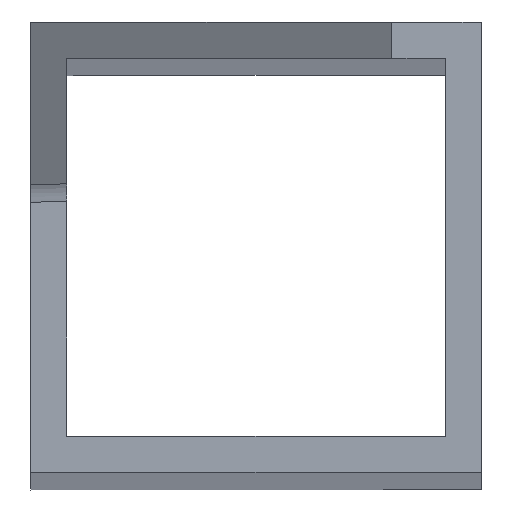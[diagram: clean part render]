
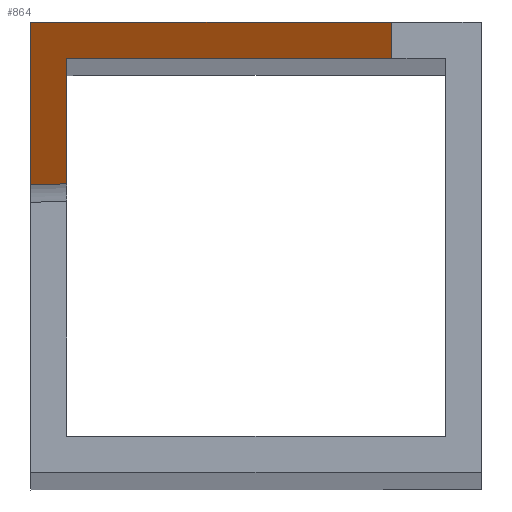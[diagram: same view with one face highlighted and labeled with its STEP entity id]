
A CAD part, top view. The second image highlights one B-rep face of the part: STEP entity #864.
In plain terms, the highlighted planar face has unit normal (-0.573, -0.011, 0.819).
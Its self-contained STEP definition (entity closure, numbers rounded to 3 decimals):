
#70 = PLANE('',#71);
#71 = AXIS2_PLACEMENT_3D('',#72,#73,#74);
#72 = CARTESIAN_POINT('',(-25.,25.,-25.));
#73 = DIRECTION('',(1.,0.,-0.));
#74 = DIRECTION('',(0.,-1.,0.));
#97 = PLANE('',#98);
#98 = AXIS2_PLACEMENT_3D('',#99,#100,#101);
#99 = CARTESIAN_POINT('',(-0.,-0.,1101.268));
#100 = DIRECTION('',(0.,0.,-1.));
#101 = DIRECTION('',(-1.,0.,-0.));
#193 = PLANE('',#194);
#194 = AXIS2_PLACEMENT_3D('',#195,#196,#197);
#195 = CARTESIAN_POINT('',(25.,25.,-25.));
#196 = DIRECTION('',(0.,-1.,0.));
#197 = DIRECTION('',(-1.,0.,0.));
#249 = PLANE('',#250);
#250 = AXIS2_PLACEMENT_3D('',#251,#252,#253);
#251 = CARTESIAN_POINT('',(-21.,21.,-25.));
#252 = DIRECTION('',(1.,0.,-0.));
#253 = DIRECTION('',(0.,-1.,0.));
#275 = PLANE('',#276);
#276 = AXIS2_PLACEMENT_3D('',#277,#278,#279);
#277 = CARTESIAN_POINT('',(21.,21.,-25.));
#278 = DIRECTION('',(0.,-1.,0.));
#279 = DIRECTION('',(-1.,0.,0.));
#361 = VERTEX_POINT('',#362);
#362 = CARTESIAN_POINT('',(15.01,25.,1101.268));
#494 = VERTEX_POINT('',#495);
#495 = CARTESIAN_POINT('',(15.09,21.,1101.268));
#514 = EDGE_CURVE('',#494,#361,#515,.T.);
#515 = SURFACE_CURVE('',#516,(#520,#526),.PCURVE_S1.);
#516 = LINE('',#517,#518);
#517 = CARTESIAN_POINT('',(15.429,4.057,
    1101.268));
#518 = VECTOR('',#519,1.);
#519 = DIRECTION('',(-0.02,1.,0.));
#520 = PCURVE('',#97,#521);
#521 = DEFINITIONAL_REPRESENTATION('',(#522),#525);
#522 = B_SPLINE_CURVE_WITH_KNOTS('',1,(#523,#524),.UNSPECIFIED.,.F.,.F.,
  (2,2),(3.747,20.948),.PIECEWISE_BEZIER_KNOTS.);
#523 = CARTESIAN_POINT('',(-15.354,7.803));
#524 = CARTESIAN_POINT('',(-15.01,25.));
#525 = ( GEOMETRIC_REPRESENTATION_CONTEXT(2) 
PARAMETRIC_REPRESENTATION_CONTEXT() REPRESENTATION_CONTEXT('2D SPACE',''
  ) );
#526 = PCURVE('',#527,#532);
#527 = PLANE('',#528);
#528 = AXIS2_PLACEMENT_3D('',#529,#530,#531);
#529 = CARTESIAN_POINT('',(-1361.988,-19.744,
    137.129));
#530 = DIRECTION('',(-0.573,-0.011,0.819)
  );
#531 = DIRECTION('',(-0.02,1.,0.)
  );
#532 = DEFINITIONAL_REPRESENTATION('',(#533),#536);
#533 = B_SPLINE_CURVE_WITH_KNOTS('',1,(#534,#535),.UNSPECIFIED.,.F.,.F.,
  (2,2),(3.747,20.948),.PIECEWISE_BEZIER_KNOTS.);
#534 = CARTESIAN_POINT('',(0.,-1681.486));
#535 = CARTESIAN_POINT('',(17.2,-1681.486));
#536 = ( GEOMETRIC_REPRESENTATION_CONTEXT(2) 
PARAMETRIC_REPRESENTATION_CONTEXT() REPRESENTATION_CONTEXT('2D SPACE',''
  ) );
#543 = VERTEX_POINT('',#544);
#544 = CARTESIAN_POINT('',(-25.,25.,1073.272));
#565 = EDGE_CURVE('',#543,#566,#568,.T.);
#566 = VERTEX_POINT('',#567);
#567 = CARTESIAN_POINT('',(-25.,6.996,1073.02));
#568 = SURFACE_CURVE('',#569,(#573,#579),.PCURVE_S1.);
#569 = LINE('',#570,#571);
#570 = CARTESIAN_POINT('',(-25.,-11.6,1072.76));
#571 = VECTOR('',#572,1.);
#572 = DIRECTION('',(0.,-1.,-0.014));
#573 = PCURVE('',#70,#574);
#574 = DEFINITIONAL_REPRESENTATION('',(#575),#578);
#575 = B_SPLINE_CURVE_WITH_KNOTS('',1,(#576,#577),.UNSPECIFIED.,.F.,.F.,
  (2,2),(-36.604,-18.598),.PIECEWISE_BEZIER_KNOTS.);
#576 = CARTESIAN_POINT('',(0.,-1098.272));
#577 = CARTESIAN_POINT('',(18.004,-1098.02));
#578 = ( GEOMETRIC_REPRESENTATION_CONTEXT(2) 
PARAMETRIC_REPRESENTATION_CONTEXT() REPRESENTATION_CONTEXT('2D SPACE',''
  ) );
#579 = PCURVE('',#527,#580);
#580 = DEFINITIONAL_REPRESENTATION('',(#581),#584);
#581 = B_SPLINE_CURVE_WITH_KNOTS('',1,(#582,#583),.UNSPECIFIED.,.F.,.F.,
  (2,2),(-36.604,-18.598),.PIECEWISE_BEZIER_KNOTS.);
#582 = CARTESIAN_POINT('',(18.,-1632.66));
#583 = CARTESIAN_POINT('',(0.,-1632.221));
#584 = ( GEOMETRIC_REPRESENTATION_CONTEXT(2) 
PARAMETRIC_REPRESENTATION_CONTEXT() REPRESENTATION_CONTEXT('2D SPACE',''
  ) );
#603 = CYLINDRICAL_SURFACE('',#604,2.);
#604 = AXIS2_PLACEMENT_3D('',#605,#606,#607);
#605 = CARTESIAN_POINT('',(-1363.135,-19.767,
    138.767));
#606 = DIRECTION('',(0.819,0.016,0.573));
#607 = DIRECTION('',(-0.02,1.,
    0.));
#647 = EDGE_CURVE('',#361,#543,#648,.T.);
#648 = SURFACE_CURVE('',#649,(#653,#659),.PCURVE_S1.);
#649 = LINE('',#650,#651);
#650 = CARTESIAN_POINT('',(-934.806,25.,436.663));
#651 = VECTOR('',#652,1.);
#652 = DIRECTION('',(-0.819,-0.,-0.573));
#653 = PCURVE('',#193,#654);
#654 = DEFINITIONAL_REPRESENTATION('',(#655),#658);
#655 = B_SPLINE_CURVE_WITH_KNOTS('',1,(#656,#657),.UNSPECIFIED.,.F.,.F.,
  (2,2),(-1159.247,-1110.414),
  .PIECEWISE_BEZIER_KNOTS.);
#656 = CARTESIAN_POINT('',(9.99,-1126.268));
#657 = CARTESIAN_POINT('',(50.,-1098.272));
#658 = ( GEOMETRIC_REPRESENTATION_CONTEXT(2) 
PARAMETRIC_REPRESENTATION_CONTEXT() REPRESENTATION_CONTEXT('2D SPACE',''
  ) );
#659 = PCURVE('',#527,#660);
#660 = DEFINITIONAL_REPRESENTATION('',(#661),#664);
#661 = B_SPLINE_CURVE_WITH_KNOTS('',1,(#662,#663),.UNSPECIFIED.,.F.,.F.,
  (2,2),(-1159.247,-1110.414),
  .PIECEWISE_BEZIER_KNOTS.);
#662 = CARTESIAN_POINT('',(17.2,-1681.486));
#663 = CARTESIAN_POINT('',(18.,-1632.66));
#664 = ( GEOMETRIC_REPRESENTATION_CONTEXT(2) 
PARAMETRIC_REPRESENTATION_CONTEXT() REPRESENTATION_CONTEXT('2D SPACE',''
  ) );
#747 = EDGE_CURVE('',#494,#748,#750,.T.);
#748 = VERTEX_POINT('',#749);
#749 = CARTESIAN_POINT('',(-21.,21.,1076.015));
#750 = SURFACE_CURVE('',#751,(#755,#761),.PCURVE_S1.);
#751 = LINE('',#752,#753);
#752 = CARTESIAN_POINT('',(-936.123,21.,435.686));
#753 = VECTOR('',#754,1.);
#754 = DIRECTION('',(-0.819,-0.,-0.573));
#755 = PCURVE('',#275,#756);
#756 = DEFINITIONAL_REPRESENTATION('',(#757),#760);
#757 = B_SPLINE_CURVE_WITH_KNOTS('',1,(#758,#759),.UNSPECIFIED.,.F.,.F.,
  (2,2),(-1160.951,-1116.903),
  .PIECEWISE_BEZIER_KNOTS.);
#758 = CARTESIAN_POINT('',(5.91,-1126.268));
#759 = CARTESIAN_POINT('',(42.,-1101.015));
#760 = ( GEOMETRIC_REPRESENTATION_CONTEXT(2) 
PARAMETRIC_REPRESENTATION_CONTEXT() REPRESENTATION_CONTEXT('2D SPACE',''
  ) );
#761 = PCURVE('',#527,#762);
#762 = DEFINITIONAL_REPRESENTATION('',(#763),#766);
#763 = B_SPLINE_CURVE_WITH_KNOTS('',1,(#764,#765),.UNSPECIFIED.,.F.,.F.,
  (2,2),(-1160.951,-1116.903),
  .PIECEWISE_BEZIER_KNOTS.);
#764 = CARTESIAN_POINT('',(13.2,-1681.486));
#765 = CARTESIAN_POINT('',(13.921,-1637.444));
#766 = ( GEOMETRIC_REPRESENTATION_CONTEXT(2) 
PARAMETRIC_REPRESENTATION_CONTEXT() REPRESENTATION_CONTEXT('2D SPACE',''
  ) );
#794 = EDGE_CURVE('',#748,#795,#797,.T.);
#795 = VERTEX_POINT('',#796);
#796 = CARTESIAN_POINT('',(-21.,7.076,1075.82));
#797 = SURFACE_CURVE('',#798,(#802,#808),.PCURVE_S1.);
#798 = LINE('',#799,#800);
#799 = CARTESIAN_POINT('',(-21.,-13.639,1075.531));
#800 = VECTOR('',#801,1.);
#801 = DIRECTION('',(0.,-1.,-0.014));
#802 = PCURVE('',#249,#803);
#803 = DEFINITIONAL_REPRESENTATION('',(#804),#807);
#804 = B_SPLINE_CURVE_WITH_KNOTS('',1,(#805,#806),.UNSPECIFIED.,.F.,.F.,
  (2,2),(-34.642,-20.717),.PIECEWISE_BEZIER_KNOTS.);
#805 = CARTESIAN_POINT('',(0.,-1101.015));
#806 = CARTESIAN_POINT('',(13.924,-1100.82));
#807 = ( GEOMETRIC_REPRESENTATION_CONTEXT(2) 
PARAMETRIC_REPRESENTATION_CONTEXT() REPRESENTATION_CONTEXT('2D SPACE',''
  ) );
#808 = PCURVE('',#527,#809);
#809 = DEFINITIONAL_REPRESENTATION('',(#810),#813);
#810 = B_SPLINE_CURVE_WITH_KNOTS('',1,(#811,#812),.UNSPECIFIED.,.F.,.F.,
  (2,2),(-34.642,-20.717),.PIECEWISE_BEZIER_KNOTS.);
#811 = CARTESIAN_POINT('',(13.921,-1637.444));
#812 = CARTESIAN_POINT('',(0.,-1637.104));
#813 = ( GEOMETRIC_REPRESENTATION_CONTEXT(2) 
PARAMETRIC_REPRESENTATION_CONTEXT() REPRESENTATION_CONTEXT('2D SPACE',''
  ) );
#864 = ADVANCED_FACE('',(#865),#527,.T.);
#865 = FACE_BOUND('',#866,.T.);
#866 = EDGE_LOOP('',(#867,#868,#889,#890,#891,#892));
#867 = ORIENTED_EDGE('',*,*,#565,.T.);
#868 = ORIENTED_EDGE('',*,*,#869,.T.);
#869 = EDGE_CURVE('',#566,#795,#870,.T.);
#870 = SURFACE_CURVE('',#871,(#875,#882),.PCURVE_S1.);
#871 = LINE('',#872,#873);
#872 = CARTESIAN_POINT('',(-1361.988,-19.744,
    137.129));
#873 = VECTOR('',#874,1.);
#874 = DIRECTION('',(0.819,0.016,0.573));
#875 = PCURVE('',#527,#876);
#876 = DEFINITIONAL_REPRESENTATION('',(#877),#881);
#877 = LINE('',#878,#879);
#878 = CARTESIAN_POINT('',(0.,-0.));
#879 = VECTOR('',#880,1.);
#880 = DIRECTION('',(0.,-1.));
#881 = ( GEOMETRIC_REPRESENTATION_CONTEXT(2) 
PARAMETRIC_REPRESENTATION_CONTEXT() REPRESENTATION_CONTEXT('2D SPACE',''
  ) );
#882 = PCURVE('',#603,#883);
#883 = DEFINITIONAL_REPRESENTATION('',(#884),#888);
#884 = LINE('',#885,#886);
#885 = CARTESIAN_POINT('',(-1.571,0.));
#886 = VECTOR('',#887,1.);
#887 = DIRECTION('',(-0.,1.));
#888 = ( GEOMETRIC_REPRESENTATION_CONTEXT(2) 
PARAMETRIC_REPRESENTATION_CONTEXT() REPRESENTATION_CONTEXT('2D SPACE',''
  ) );
#889 = ORIENTED_EDGE('',*,*,#794,.F.);
#890 = ORIENTED_EDGE('',*,*,#747,.F.);
#891 = ORIENTED_EDGE('',*,*,#514,.T.);
#892 = ORIENTED_EDGE('',*,*,#647,.T.);
